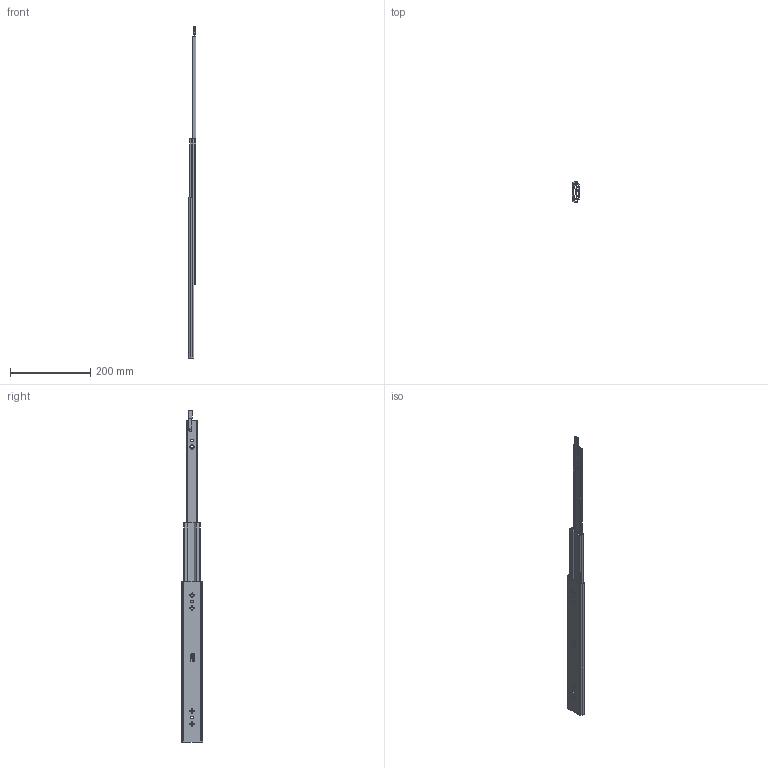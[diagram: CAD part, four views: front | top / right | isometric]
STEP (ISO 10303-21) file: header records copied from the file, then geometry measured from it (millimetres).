
FILE_DESCRIPTION (( 'STEP AP214' ), '1' );
FILE_NAME ('DSCHMD400MML-OPEN.STEP', '2018-11-27T07:46:25', ( '' ), ( '' ), 'SwSTEP 2.0', 'SolidWorks 2017', '' );
FILE_SCHEMA (( 'AUTOMOTIVE_DESIGN' ));
Length unit declared in the file: millimetre
Products named in the file (5): DSCHMDL-1_400; DSCHMDL-2_400; DSCHMDL-3_400; DSCHMD400MML-OPEN; DSCHMDL-4
Assembly tree (4 placements, depth 2):
  DSCHMD400MML-OPEN
    DSCHMDL-3_400
    DSCHMDL-2_400
    DSCHMDL-1_400
    DSCHMDL-4
Bounding box: 18.7 x 53 x 826.1 mm (x, y, z)
Volume: 132830.5 mm3; surface area: 138997.8 mm2
Topology: 4 solids, 4 shells, 902 faces, 2468 edges, 1636 vertices
Faces by surface type: plane 504, bspline 237, cylinder 125, cone 28, torus 4, sphere 4
Entity records: 30512 total; most frequent: CARTESIAN_POINT 8606, ORIENTED_EDGE 4928, DIRECTION 3562, EDGE_CURVE 2464, VECTOR 1650, LINE 1650, VERTEX_POINT 1636, EDGE_LOOP 994
